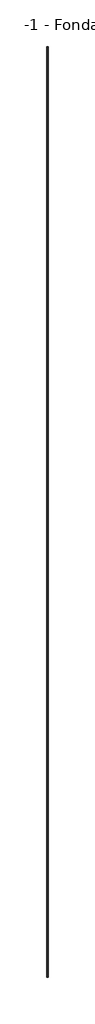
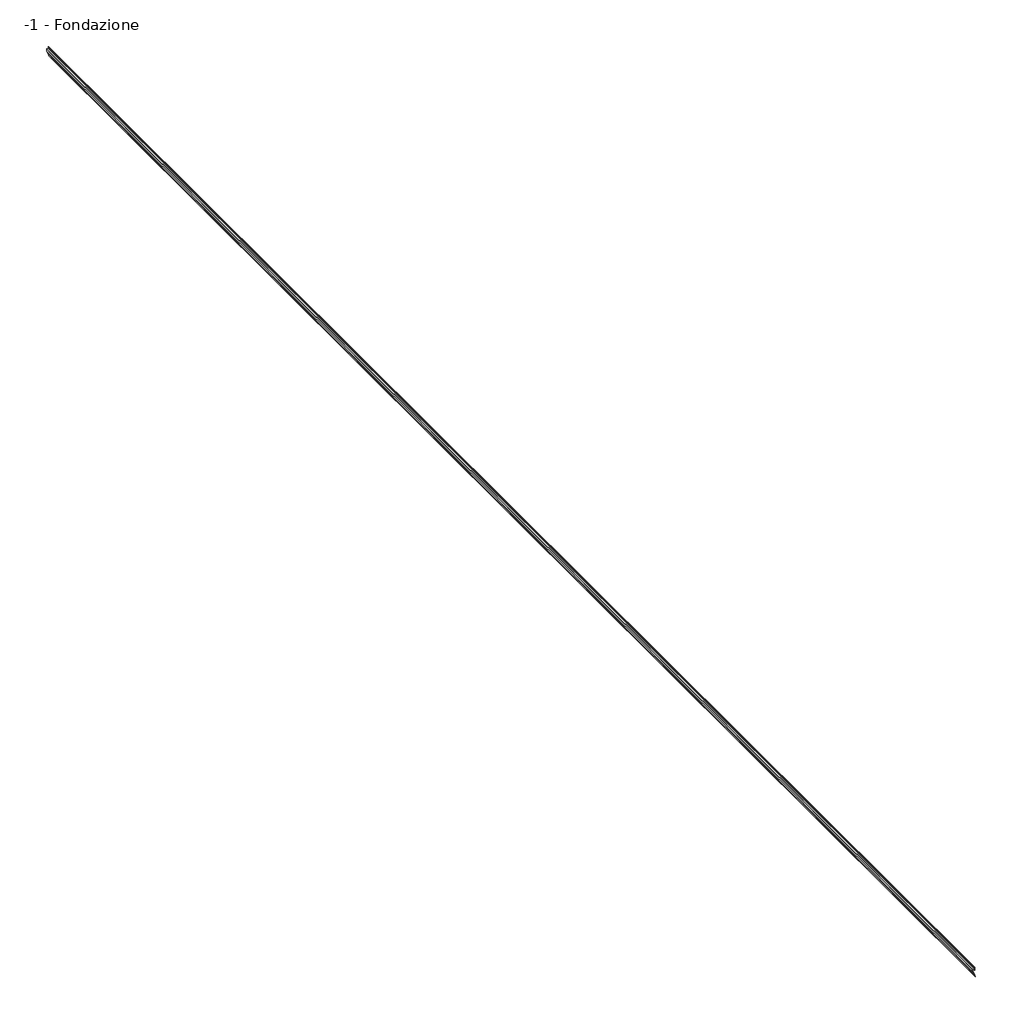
# One storey: 1 proxy.
"""IFC4 building model written with IfcOpenShell, lengths in millimetres."""

from ifc_helpers import new_model, si_unit, frame, origin, place, context, project, spatial, polyline, outline, extrude, element, save

model = new_model("IFC4")

# Units and contexts
model_context = context("Model", 3, world=origin())
ifc_project = project(units=[si_unit("LENGTHUNIT", "METRE", prefix="MILLI")], contexts=[model_context])

# Site, building, storey
site = spatial("IfcSite", under=ifc_project)
building = spatial("IfcBuilding", under=site)
storey = spatial("IfcBuildingStorey", under=building, Name="-1 - Fondazione", Elevation=-500.0)

# Proxy
placement = place(None, origin())
element("IfcBuildingElementProxy", 1, Name="AQUASCUD H.10 LINE VOLTECO", ObjectType="AQUASCUD H.10 LINE VOLTECO", at=placement, inside=storey, context=model_context, shape_type="SweptSolid", body=[
    extrude(outline(polyline([(50.0, 17992.4028429), (36.4238488, 17992.4028429), (7.4730054, 18005.9028429), (-1.7377461, 18005.9028429), (-5.0, 18009.5259429), (-5.0, 18011.7676578), (-1.0699031, 18007.4028429), (7.8055474, 18007.4028429), (36.7563908, 17993.9028429), (48.4605438, 17993.9028429), (48.1231173, 17995.364398), (46.6231173, 17995.364398), (45.1231173, 17995.364398), (45.776815, 17996.864398), (47.776815, 17996.864398), (45.6901255, 18005.9028429), (43.0, 18005.9028429), (43.0, 18004.4028429), (40.0, 18004.4028429), (40.0, 18007.4028429), (60.0, 18007.4028429), (60.0, 18004.4028429), (57.0, 18004.4028429), (57.0, 18005.9028429), (47.2295817, 18005.9028429), (50.0, 17993.9028429), (50.0, 17992.4028429)])), frame((0.0, 6340.2646486, 0.0), z_axis=(0.0, 1.0, 0.0), x_axis=(0.0, 0.0, 1.0)), (0.0, 0.0, 1.0), 10300.0),
])

save(model, "model.ifc")
